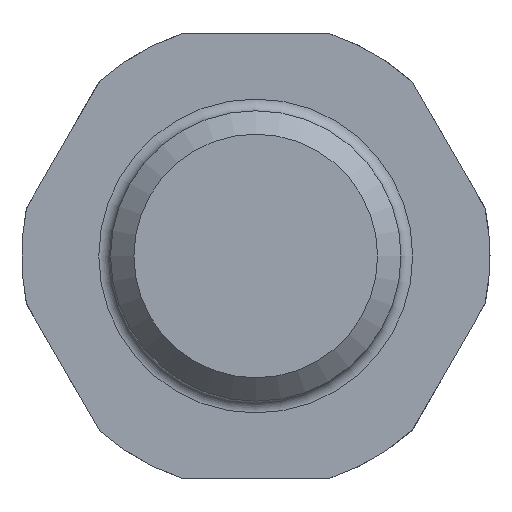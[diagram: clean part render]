
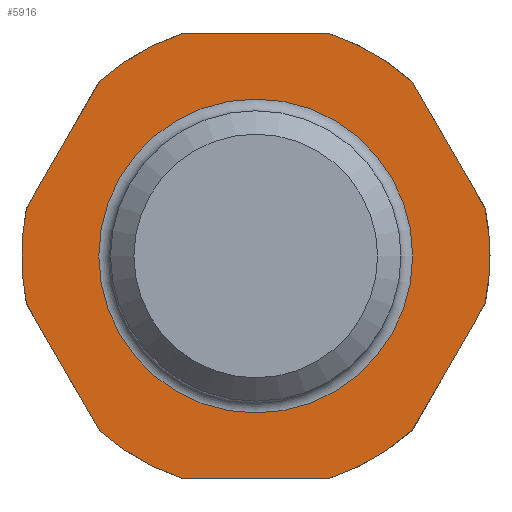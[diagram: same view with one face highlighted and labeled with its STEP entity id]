
A CAD part, front view. The second image highlights one B-rep face of the part: STEP entity #5916.
In plain terms, the highlighted planar face has unit normal (0, -1, 0).
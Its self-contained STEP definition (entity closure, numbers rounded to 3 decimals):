
#54=LINE('',#9278,#356);
#55=LINE('',#9282,#357);
#56=LINE('',#9286,#358);
#57=LINE('',#9290,#359);
#58=LINE('',#9294,#360);
#59=LINE('',#9298,#361);
#356=VECTOR('',#7226,10.);
#357=VECTOR('',#7229,10.);
#358=VECTOR('',#7232,10.);
#359=VECTOR('',#7235,10.);
#360=VECTOR('',#7238,10.);
#361=VECTOR('',#7241,10.);
#689=PLANE('',#6277);
#815=FACE_BOUND('',#1234,.T.);
#894=FACE_OUTER_BOUND('',#1233,.T.);
#1233=EDGE_LOOP('',(#3674,#3675,#3676,#3677,#3678,#3679,#3680,#3681,#3682,
#3683,#3684,#3685));
#1234=EDGE_LOOP('',(#3686));
#1595=CIRCLE('',#6276,6.7);
#1596=CIRCLE('',#6278,10.);
#1597=CIRCLE('',#6279,10.);
#1598=CIRCLE('',#6280,10.);
#1599=CIRCLE('',#6281,10.);
#1600=CIRCLE('',#6282,10.);
#1601=CIRCLE('',#6283,10.);
#2163=VERTEX_POINT('',#9273);
#2164=VERTEX_POINT('',#9276);
#2165=VERTEX_POINT('',#9277);
#2166=VERTEX_POINT('',#9279);
#2167=VERTEX_POINT('',#9281);
#2168=VERTEX_POINT('',#9283);
#2169=VERTEX_POINT('',#9285);
#2170=VERTEX_POINT('',#9287);
#2171=VERTEX_POINT('',#9289);
#2172=VERTEX_POINT('',#9291);
#2173=VERTEX_POINT('',#9293);
#2174=VERTEX_POINT('',#9295);
#2175=VERTEX_POINT('',#9297);
#2758=EDGE_CURVE('',#2163,#2163,#1595,.T.);
#2759=EDGE_CURVE('',#2164,#2165,#54,.T.);
#2760=EDGE_CURVE('',#2164,#2166,#1596,.T.);
#2761=EDGE_CURVE('',#2167,#2166,#55,.T.);
#2762=EDGE_CURVE('',#2167,#2168,#1597,.T.);
#2763=EDGE_CURVE('',#2169,#2168,#56,.T.);
#2764=EDGE_CURVE('',#2169,#2170,#1598,.T.);
#2765=EDGE_CURVE('',#2171,#2170,#57,.T.);
#2766=EDGE_CURVE('',#2171,#2172,#1599,.T.);
#2767=EDGE_CURVE('',#2173,#2172,#58,.T.);
#2768=EDGE_CURVE('',#2173,#2174,#1600,.T.);
#2769=EDGE_CURVE('',#2175,#2174,#59,.T.);
#2770=EDGE_CURVE('',#2175,#2165,#1601,.T.);
#3674=ORIENTED_EDGE('',*,*,#2759,.F.);
#3675=ORIENTED_EDGE('',*,*,#2760,.T.);
#3676=ORIENTED_EDGE('',*,*,#2761,.F.);
#3677=ORIENTED_EDGE('',*,*,#2762,.T.);
#3678=ORIENTED_EDGE('',*,*,#2763,.F.);
#3679=ORIENTED_EDGE('',*,*,#2764,.T.);
#3680=ORIENTED_EDGE('',*,*,#2765,.F.);
#3681=ORIENTED_EDGE('',*,*,#2766,.T.);
#3682=ORIENTED_EDGE('',*,*,#2767,.F.);
#3683=ORIENTED_EDGE('',*,*,#2768,.T.);
#3684=ORIENTED_EDGE('',*,*,#2769,.F.);
#3685=ORIENTED_EDGE('',*,*,#2770,.T.);
#3686=ORIENTED_EDGE('',*,*,#2758,.F.);
#5916=ADVANCED_FACE('',(#894,#815),#689,.T.);
#6276=AXIS2_PLACEMENT_3D('',#9274,#7222,#7223);
#6277=AXIS2_PLACEMENT_3D('',#9275,#7224,#7225);
#6278=AXIS2_PLACEMENT_3D('',#9280,#7227,#7228);
#6279=AXIS2_PLACEMENT_3D('',#9284,#7230,#7231);
#6280=AXIS2_PLACEMENT_3D('',#9288,#7233,#7234);
#6281=AXIS2_PLACEMENT_3D('',#9292,#7236,#7237);
#6282=AXIS2_PLACEMENT_3D('',#9296,#7239,#7240);
#6283=AXIS2_PLACEMENT_3D('',#9299,#7242,#7243);
#7222=DIRECTION('center_axis',(0.,-1.,0.));
#7223=DIRECTION('ref_axis',(1.,0.,0.));
#7224=DIRECTION('center_axis',(0.,-1.,0.));
#7225=DIRECTION('ref_axis',(0.,0.,-1.));
#7226=DIRECTION('',(-0.5,0.,0.866));
#7227=DIRECTION('center_axis',(0.,-1.,0.));
#7228=DIRECTION('ref_axis',(1.,0.,0.));
#7229=DIRECTION('',(-1.,0.,0.));
#7230=DIRECTION('center_axis',(0.,-1.,0.));
#7231=DIRECTION('ref_axis',(1.,0.,0.));
#7232=DIRECTION('',(-0.5,0.,-0.866));
#7233=DIRECTION('center_axis',(0.,-1.,0.));
#7234=DIRECTION('ref_axis',(1.,0.,0.));
#7235=DIRECTION('',(0.5,0.,-0.866));
#7236=DIRECTION('center_axis',(0.,-1.,0.));
#7237=DIRECTION('ref_axis',(1.,0.,0.));
#7238=DIRECTION('',(1.,0.,0.));
#7239=DIRECTION('center_axis',(0.,-1.,0.));
#7240=DIRECTION('ref_axis',(1.,0.,0.));
#7241=DIRECTION('',(0.5,0.,0.866));
#7242=DIRECTION('center_axis',(0.,-1.,0.));
#7243=DIRECTION('ref_axis',(1.,0.,0.));
#9273=CARTESIAN_POINT('',(6.7,0.,0.));
#9274=CARTESIAN_POINT('Origin',(0.,0.,0.));
#9275=CARTESIAN_POINT('Origin',(8.35,0.,0.));
#9276=CARTESIAN_POINT('',(-6.666,0.,-7.454));
#9277=CARTESIAN_POINT('',(-9.788,0.,-2.046));
#9278=CARTESIAN_POINT('',(-8.555,0.,-4.183));
#9279=CARTESIAN_POINT('',(-3.122,0.,-9.5));
#9280=CARTESIAN_POINT('Origin',(0.,0.,0.));
#9281=CARTESIAN_POINT('',(3.122,0.,-9.5));
#9282=CARTESIAN_POINT('',(1.433,0.,-9.5));
#9283=CARTESIAN_POINT('',(6.666,0.,-7.454));
#9284=CARTESIAN_POINT('Origin',(0.,0.,0.));
#9285=CARTESIAN_POINT('',(9.788,0.,-2.046));
#9286=CARTESIAN_POINT('',(7.9,0.,-5.317));
#9287=CARTESIAN_POINT('',(9.788,0.,2.046));
#9288=CARTESIAN_POINT('Origin',(0.,0.,0.));
#9289=CARTESIAN_POINT('',(6.666,0.,7.454));
#9290=CARTESIAN_POINT('',(10.642,0.,0.567));
#9291=CARTESIAN_POINT('',(3.122,0.,9.5));
#9292=CARTESIAN_POINT('Origin',(0.,0.,0.));
#9293=CARTESIAN_POINT('',(-3.122,0.,9.5));
#9294=CARTESIAN_POINT('',(6.917,0.,9.5));
#9295=CARTESIAN_POINT('',(-6.666,0.,7.454));
#9296=CARTESIAN_POINT('Origin',(0.,0.,0.));
#9297=CARTESIAN_POINT('',(-9.788,0.,2.046));
#9298=CARTESIAN_POINT('',(-5.812,0.,8.933));
#9299=CARTESIAN_POINT('Origin',(0.,0.,0.));
